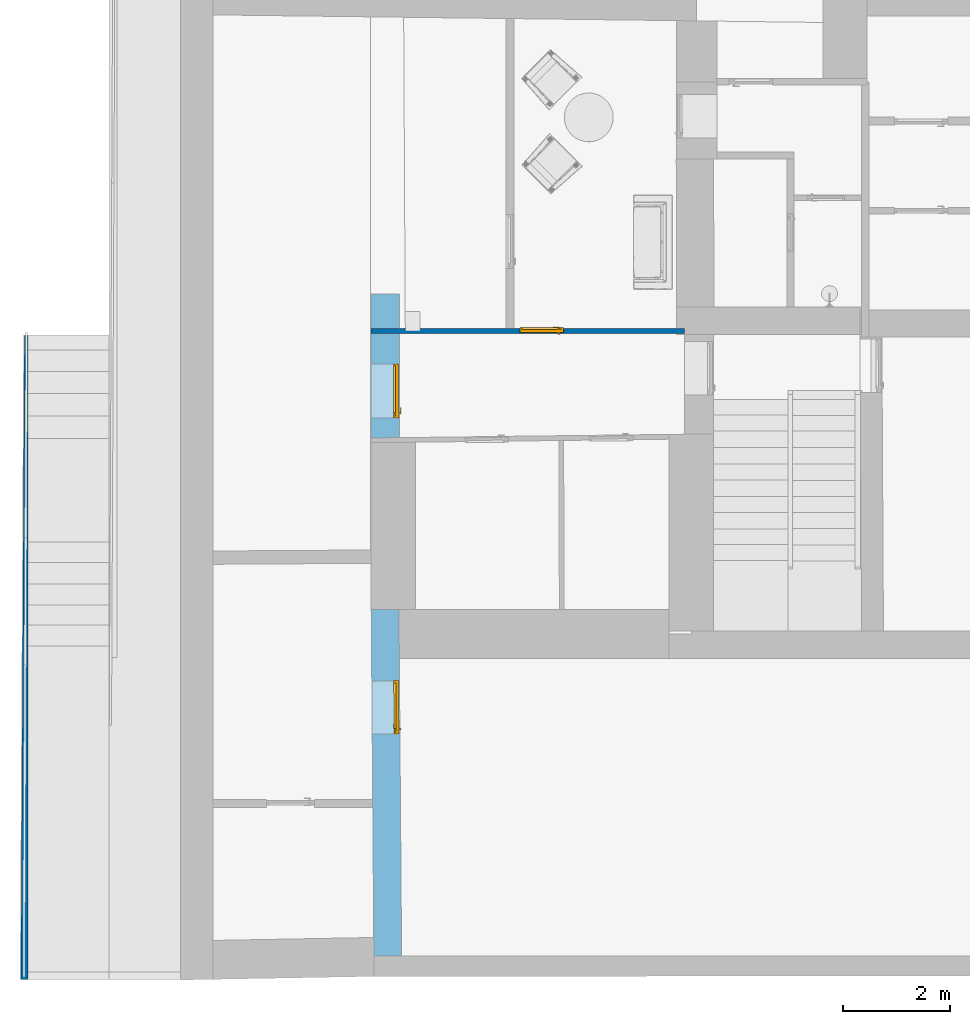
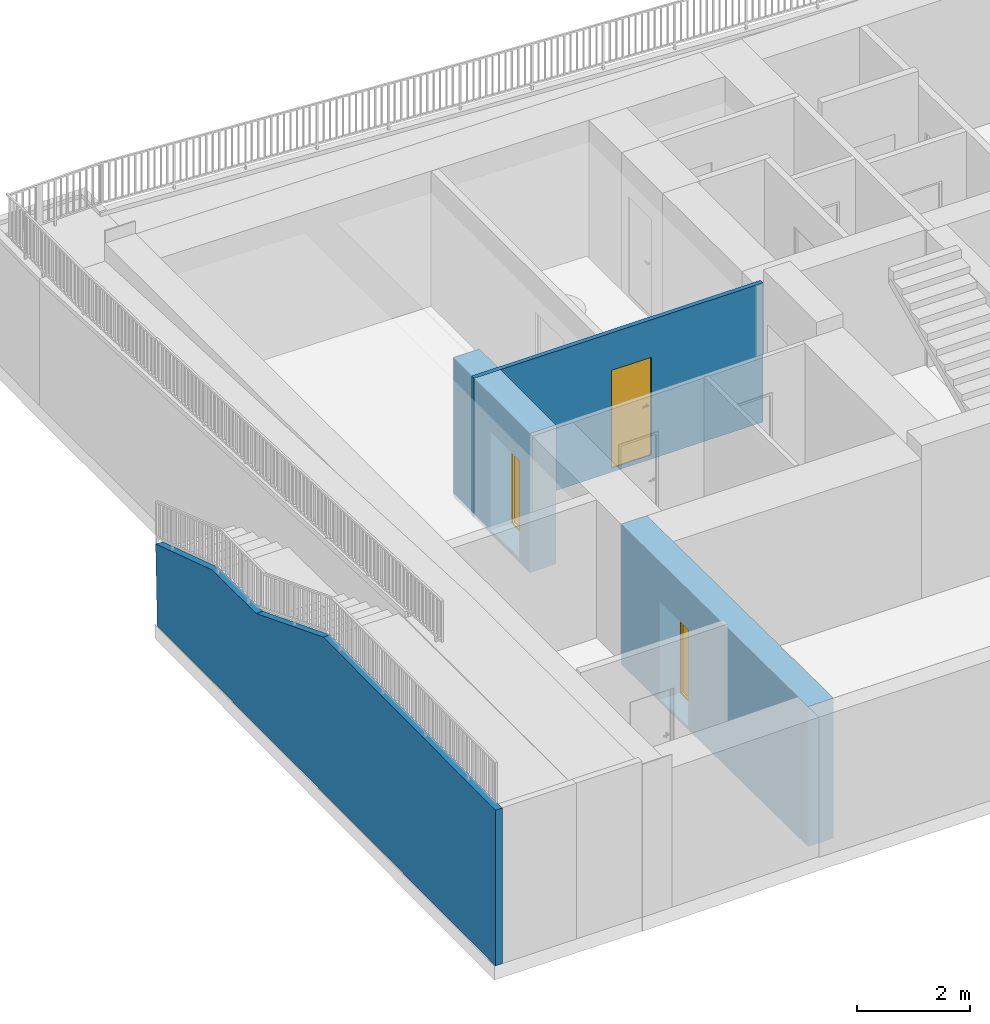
# One storey, part 6 of 17: 3 doors, 2 walls, 3 openings, plus 2 elements that do not belong to this part.
"""IFC2X3 building model written with IfcOpenShell, lengths in millimetres."""

from ifc_helpers import new_model, entity, si_unit, converted_unit, derived_unit, direction, frame, frame_2d, origin, place, context, subcontext, project, spatial, polyline, rectangle, outline, extrude, clip, bounded_halfspace, faceted_brep, source, transform, mapped, material, material_list, layer, layer_set, layer_usage, type_object, type_shapes, element, fill, save


model = new_model("IFC2X3")

# Units and contexts
model_context = context("Model", 3, precision=0.01, world=origin(), true_north=direction((6.12303176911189e-17, 1.0)))
context_of_model = context(None, 3, precision=0.01, world=origin(), true_north=direction((6.12303176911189e-17, 1.0)))
body_context = subcontext(model_context, "Body", "Model", "MODEL_VIEW")
ifc_project = project(units=[si_unit("LENGTHUNIT", "METRE", prefix="MILLI"), si_unit("AREAUNIT", "SQUARE_METRE"), si_unit("VOLUMEUNIT", "CUBIC_METRE"), converted_unit("PLANEANGLEUNIT", "DEGREE", entity("IfcRatioMeasure", 0.0174532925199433), si_unit("PLANEANGLEUNIT", "RADIAN"), dimensions=[0, 0, 0, 0, 0, 0, 0]), si_unit("MASSUNIT", "GRAM", prefix="KILO"), derived_unit("MASSDENSITYUNIT", [(si_unit("MASSUNIT", "GRAM", prefix="KILO"), 1), (si_unit("LENGTHUNIT", "METRE"), -3)]), si_unit("TIMEUNIT", "SECOND"), si_unit("FREQUENCYUNIT", "HERTZ"), si_unit("THERMODYNAMICTEMPERATUREUNIT", "DEGREE_CELSIUS"), derived_unit("THERMALTRANSMITTANCEUNIT", [(si_unit("MASSUNIT", "GRAM", prefix="KILO"), 1), (si_unit("THERMODYNAMICTEMPERATUREUNIT", "KELVIN"), -1), (si_unit("TIMEUNIT", "SECOND"), -3)]), derived_unit("VOLUMETRICFLOWRATEUNIT", [(si_unit("LENGTHUNIT", "METRE"), 3), (si_unit("TIMEUNIT", "SECOND"), -1)]), si_unit("ELECTRICCURRENTUNIT", "AMPERE"), si_unit("ELECTRICVOLTAGEUNIT", "VOLT"), si_unit("POWERUNIT", "WATT"), si_unit("FORCEUNIT", "NEWTON", prefix="KILO"), si_unit("ILLUMINANCEUNIT", "LUX"), si_unit("LUMINOUSFLUXUNIT", "LUMEN"), si_unit("LUMINOUSINTENSITYUNIT", "CANDELA"), derived_unit("USERDEFINED", [(si_unit("MASSUNIT", "GRAM", prefix="KILO"), -1), (si_unit("LENGTHUNIT", "METRE"), -2), (si_unit("TIMEUNIT", "SECOND"), 3), (si_unit("LUMINOUSFLUXUNIT", "LUMEN"), 1)]), derived_unit("LINEARVELOCITYUNIT", [(si_unit("LENGTHUNIT", "METRE"), 1), (si_unit("TIMEUNIT", "SECOND"), -1)]), si_unit("PRESSUREUNIT", "PASCAL"), derived_unit("USERDEFINED", [(si_unit("LENGTHUNIT", "METRE"), -2), (si_unit("MASSUNIT", "GRAM", prefix="KILO"), 1), (si_unit("TIMEUNIT", "SECOND"), -2)])], contexts=[model_context, context_of_model])

# Site, building, storey
site_placement = place(None, frame((121442.264707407, 135347.995453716, -1800.0)))
site = spatial("IfcSite", under=ifc_project, at=site_placement, Name="Surface", CompositionType="ELEMENT")
building_placement = place(site_placement, origin())
building = spatial("IfcBuilding", under=site, at=building_placement, CompositionType="ELEMENT")
storey_placement = place(building_placement, frame((0.0, 0.0, -1490.0)))
storey = spatial("IfcBuildingStorey", under=building, at=storey_placement, Name="Kelder", CompositionType="ELEMENT", Elevation=-1489.99999999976)

# Wall, opening, door
ifc_material_1 = material(Name="__Betoonelement")
ifc_layer_1 = layer(ifc_material_1, 520.0)
ifc_layer_set_1 = layer_set([ifc_layer_1], Name="Basic Wall:52_Betoon 2")
ifc_layer_usage_1 = layer_usage(ifc_layer_set_1, "AXIS2", "NEGATIVE", 260.0)
wall_type_1 = type_object("IfcWallType", Name="Basic Wall:52_Betoon 2", PredefinedType="STANDARD", material=ifc_layer_set_1)
wall_1_placement = place(storey_placement, frame((-115403.369617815, -133193.472015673, -20.0), z_axis=(0.0, 0.0, 1.0), x_axis=(-0.00761736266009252, 0.999970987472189, 0.0)))
wall_1 = element("IfcWallStandardCase", 1, at=wall_1_placement, inside=storey, type_object=wall_type_1, material=ifc_layer_usage_1, Name="Basic Wall:52_Betoon 2", ObjectType="Basic Wall:52_Betoon 2", context=body_context, shape_type="Clipping", body=[
    clip(extrude(outline(polyline([(6497.37636983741, -260.0), (6501.33751334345, 260.0), (3.61065612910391, 260.0), (0.0, -260.0), (6497.37636983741, -260.0)])), origin(), (0.0, 0.0, 1.0), 3017.0), bounded_halfspace(frame((0.0, -260.0, 3017.0), z_axis=(0.0, 0.0, -1.0), x_axis=(-0.999970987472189, 0.00761736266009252, 0.0)), True, frame((0.0, -260.0, 3017.0)), polyline([(0.0, 0.0), (5577.34967753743, 0.0), (6497.37636983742, 0.0), (6501.33751334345, 520.0), (353.911781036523, 520.0), (3.610656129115, 520.0), (0.0, 0.0)]))),
])
opening_1_placement = place(wall_1_placement, frame((5162.29273596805, 260.0, 60.0)))
opening_1 = element("IfcOpeningElement", 2, at=opening_1_placement, cuts=wall_1, Name="sma_D01:1000 x 2100mm SU-9 Tuletokke:1", ObjectType="Opening", context=body_context, shape_type="SweptSolid", body=[
    extrude(rectangle(XDim=2099.99999999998, YDim=1000.0, at=frame_2d((1049.99999999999, 500.0), x_axis=(1.0, 0.0))), frame((0.0, 0.0, 0.0), z_axis=(0.0, -1.0, 0.0), x_axis=(0.0, 0.0, 1.0)), (0.0, 0.0, 1.0), 520.0),
])
ifc_material_2 = material(Name="Metal - Aluminium")
ifc_material_3 = material(Name="Metalli - teras- valge")
ifc_material_list_1 = material_list([ifc_material_2, ifc_material_3])
ifc_material_list_2 = material_list([ifc_material_2, ifc_material_3])
door_style_1 = type_object("IfcDoorStyle", Name="1000 x 2100mm SU-9 Tuletokke", ConstructionType="NOTDEFINED", OperationType="SINGLE_SWING_LEFT", ParameterTakesPrecedence=False, Sizeable=False, material=ifc_material_list_2)
shared_shape_1 = source(origin(), body_context, "Body", "Brep", [
    faceted_brep([(900.0, 410.0, 1112.5), (805.0, 410.0, 1112.5), (805.0, 405.0, 1112.5), (925.0, 405.0, 1112.5), (925.0, 448.0, 1112.5), (900.0, 448.0, 1112.5), (900.0, 410.0, 1087.5), (900.0, 448.0, 1087.5), (925.0, 448.0, 1087.5), (925.0, 405.0, 1087.5), (805.0, 405.0, 1087.5), (805.0, 410.0, 1087.5)], [[[0, 1, 2, 3, 4, 5]], [[6, 7, 8, 9, 10, 11]], [[5, 7, 6, 0]], [[4, 8, 7, 5]], [[3, 9, 8, 4]], [[2, 10, 9, 3]], [[1, 11, 10, 2]], [[0, 6, 11, 1]]]),
    faceted_brep([(887.500000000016, 448.0, 1137.5), (937.500000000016, 448.0, 1137.5), (937.500000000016, 450.0, 1137.5), (887.500000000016, 450.0, 1137.5), (887.500000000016, 448.0, 1017.5), (887.500000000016, 450.0, 1017.5), (937.500000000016, 450.0, 1017.5), (937.500000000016, 448.0, 1017.5)], [[[0, 1, 2, 3]], [[4, 5, 6, 7]], [[3, 5, 4, 0]], [[2, 6, 5, 3]], [[1, 7, 6, 2]], [[0, 4, 7, 1]]]),
    faceted_brep([(900.0, 540.0, 1112.5), (900.0, 502.0, 1112.5), (925.0, 502.0, 1112.5), (925.0, 545.0, 1112.5), (805.0, 545.0, 1112.5), (805.0, 540.0, 1112.5), (900.0, 540.0, 1087.5), (805.0, 540.0, 1087.5), (805.0, 545.0, 1087.5), (925.0, 545.0, 1087.5), (925.0, 502.0, 1087.5), (900.0, 502.0, 1087.5)], [[[0, 1, 2, 3, 4, 5]], [[6, 7, 8, 9, 10, 11]], [[1, 0, 6, 11]], [[2, 1, 11, 10]], [[3, 2, 10, 9]], [[4, 3, 9, 8]], [[5, 4, 8, 7]], [[0, 5, 7, 6]]]),
    faceted_brep([(887.500000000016, 502.0, 1137.5), (887.500000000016, 500.0, 1137.5), (937.500000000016, 500.0, 1137.5), (937.500000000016, 502.0, 1137.5), (887.500000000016, 502.0, 1017.5), (937.500000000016, 502.0, 1017.5), (937.500000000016, 500.0, 1017.5), (887.500000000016, 500.0, 1017.5)], [[[0, 1, 2, 3]], [[4, 5, 6, 7]], [[1, 0, 4, 7]], [[2, 1, 7, 6]], [[3, 2, 6, 5]], [[0, 3, 5, 4]]]),
    faceted_brep([(0.0, 410.0, 0.0), (0.0, 500.0, 0.0), (25.0, 500.0, 0.0), (25.0, 450.0, 0.0), (40.0, 450.0, 0.0), (40.0, 410.0, 0.0), (40.0, 410.0, 2060.0), (960.0, 410.0, 2060.0), (960.0, 410.0, 0.0), (1000.0, 410.0, 0.0), (1000.0, 410.0, 2100.0), (0.0, 410.0, 2100.0), (40.0, 450.0, 2060.0), (25.0, 450.0, 2075.0), (975.0, 450.0, 2075.0), (975.0, 450.0, 0.0), (960.0, 450.0, 0.0), (960.0, 450.0, 2060.0), (25.0, 500.0, 2075.0), (0.0, 500.0, 2100.0), (1000.0, 500.0, 2100.0), (1000.0, 500.0, 0.0), (975.0, 500.0, 0.0), (975.0, 500.0, 2075.0)], [[[0, 1, 2, 3, 4, 5]], [[5, 6, 7, 8, 9, 10, 11, 0]], [[4, 12, 6, 5]], [[3, 13, 14, 15, 16, 17, 12, 4]], [[2, 18, 13, 3]], [[1, 19, 20, 21, 22, 23, 18, 2]], [[0, 11, 19, 1]], [[10, 9, 21, 20]], [[9, 8, 16, 15, 22, 21]], [[17, 16, 8, 7]], [[23, 22, 15, 14]], [[12, 17, 7, 6]], [[18, 23, 14, 13]], [[11, 10, 20, 19]]]),
    faceted_brep([(975.0, 450.0, 2075.0), (25.0, 450.0, 2075.0), (25.0, 450.0, 20.0), (975.0, 450.0, 20.0), (975.0, 500.0, 2075.0), (975.0, 500.0, 20.0), (25.0, 500.0, 20.0), (25.0, 500.0, 2075.0)], [[[0, 1, 2, 3]], [[4, 5, 6, 7]], [[3, 5, 4, 0]], [[2, 6, 5, 3]], [[1, 7, 6, 2]], [[0, 4, 7, 1]]]),
    faceted_brep([(40.0, 410.0, 30.0), (40.0, 450.0, 30.0), (40.0, 450.0, 20.0), (40.0, 450.0, 0.0), (40.0, 410.0, 0.0), (960.0, 410.0, 30.0), (960.0, 410.0, 0.0), (960.0, 450.0, 0.0), (960.0, 450.0, 20.0), (960.0, 450.0, 30.0), (25.0, 450.0, 0.0), (25.0, 500.0, 0.0), (975.0, 500.0, 0.0), (975.0, 450.0, 0.0), (25.0, 500.0, 20.0), (25.0, 450.0, 20.0), (975.0, 500.0, 20.0), (975.0, 450.0, 20.0)], [[[0, 1, 2, 3, 4]], [[5, 6, 7, 8, 9]], [[4, 6, 5, 0]], [[3, 10, 11, 12, 13, 7, 6, 4]], [[9, 8, 2, 1]], [[0, 5, 9, 1]], [[14, 11, 10, 15]], [[16, 17, 13, 12]], [[15, 2, 8, 17, 16, 14]], [[10, 3, 2, 15]], [[14, 16, 12, 11]], [[17, 8, 7, 13]]]),
])
type_shapes(door_style_1, [shared_shape_1])
door_1_placement = place(opening_1_placement, frame((0.0, 0.0, 0.0), z_axis=(0.0, 0.0, 1.0), x_axis=(-1.0, 0.0, 0.0)))
door_1 = element("IfcDoor", 3, at=door_1_placement, inside=storey, type_object=door_style_1, material=ifc_material_list_1, Name="sma_D01:1000 x 2100mm SU-9 Tuletokke", ObjectType="1000 x 2100mm SU-9 Tuletokke", OverallHeight=2099.99999999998, OverallWidth=1000.0, context=body_context, shape_type="MappedRepresentation", body=[
    mapped(shared_shape_1, transform((0.0, 0.0, 0.0), scale=1.0)),
])
fill(opening_1, door_1)

ifc_layer_2 = layer(ifc_material_1, 90.0)
ifc_layer_set_2 = layer_set([ifc_layer_2], Name="Basic Wall:9_Betoon 2")
wall_type_2 = type_object("IfcWallType", Name="Basic Wall:9_Betoon 2", PredefinedType="STANDARD", material=ifc_layer_set_2)
wall_2_placement = place(storey_placement, frame((-109839.148081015, -121474.923072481, 0.0), z_axis=(0.0, 0.0, 1.0), x_axis=(-1.0, 0.0, 0.0)))
wall_2 = element("IfcWall", 4, at=wall_2_placement, inside=storey, type_object=wall_type_2, Name="Basic Wall:9_Betoon 2", ObjectType="Basic Wall:9_Betoon 2", context=body_context, shape_type="Brep", body=[
    faceted_brep([(5879.97873760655, -45.0, 0.0), (5879.97873760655, -45.0, 2997.0), (0.0, -45.0, 2997.0), (0.0, -45.0, 87.0), (5555.7275830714, -45.0, 87.0), (5555.7275830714, -45.0, 0.0), (3084.48827189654, -45.0, 2190.0), (3084.48827189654, -45.0, 90.0), (2274.48827189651, -45.0, 90.0), (2274.48827189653, -45.0, 2190.0), (5879.97873760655, 45.0, 0.0), (0.0, 45.0, 0.0), (0.0, 45.0, 2997.0), (5879.97873760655, 45.0, 2997.0), (3084.48827189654, 45.0, 90.0), (3084.48827189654, 45.0, 2190.0), (2274.48827189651, 45.0, 2190.0), (2274.48827189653, 45.0, 90.0), (5555.49564161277, 0.0, 0.0), (0.0, 0.0, 0.0), (0.0, 0.0, 87.0), (5555.49564161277, 0.0, 87.0)], [[[0, 1, 2, 3, 4, 5], [6, 7, 8, 9]], [[10, 11, 12, 13], [14, 15, 16, 17]], [[11, 10, 0, 5, 18, 19]], [[1, 0, 10, 13]], [[12, 11, 19, 20, 3, 2]], [[14, 7, 6, 15]], [[15, 6, 9, 16]], [[8, 17, 16, 9]], [[7, 14, 17, 8]], [[20, 21, 4, 3]], [[21, 20, 19, 18]], [[2, 1, 13, 12]], [[4, 21, 18, 5]]]),
])
opening_2_placement = place(wall_2_placement, frame((2274.48827189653, -45.0, 90.0)))
opening_2 = element("IfcOpeningElement", 5, at=opening_2_placement, cuts=wall_2, Name="sma_D01:810 x 2110_SU-01 Siseuks:1", ObjectType="Opening", context=body_context, shape_type="SweptSolid", body=[
    extrude(rectangle(XDim=2099.99999999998, YDim=810.0, at=frame_2d((1049.99999999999, 405.0), x_axis=(1.0, 0.0))), frame((0.0, 0.0, 0.0), z_axis=(0.0, 1.0, 0.0), x_axis=(0.0, 0.0, 1.0)), (0.0, 0.0, 1.0), 90.0),
])
ifc_material_4 = material(Name="Door - Panel_valge")
ifc_material_list_3 = material_list([ifc_material_2, ifc_material_4])
ifc_material_list_4 = material_list([ifc_material_2, ifc_material_4])
door_style_2 = type_object("IfcDoorStyle", Name="810 x 2110_SU-01 Siseuks", ConstructionType="NOTDEFINED", OperationType="SINGLE_SWING_RIGHT", ParameterTakesPrecedence=False, Sizeable=False, material=ifc_material_list_4)
shared_shape_2 = source(origin(), body_context, "Body", "Brep", [
    faceted_brep([(100.0, -20.0, 1112.5), (100.0, 18.0, 1112.5), (75.0, 18.0, 1112.5), (75.0, -25.0, 1112.5), (195.0, -25.0, 1112.5), (195.0, -20.0, 1112.5), (100.0, -20.0, 1087.5), (195.0, -20.0, 1087.5), (195.0, -25.0, 1087.5), (75.0, -25.0, 1087.5), (75.0, 18.0, 1087.5), (100.0, 18.0, 1087.5)], [[[0, 1, 2, 3, 4, 5]], [[6, 7, 8, 9, 10, 11]], [[1, 0, 6, 11]], [[2, 1, 11, 10]], [[3, 2, 10, 9]], [[4, 3, 9, 8]], [[5, 4, 8, 7]], [[0, 5, 7, 6]]]),
    faceted_brep([(112.5, 18.0, 1137.5), (112.5, 20.0, 1137.5), (62.4999999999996, 20.0, 1137.5), (62.4999999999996, 18.0, 1137.5), (112.5, 18.0, 1017.5), (62.4999999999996, 18.0, 1017.5), (62.4999999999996, 20.0, 1017.5), (112.5, 20.0, 1017.5)], [[[0, 1, 2, 3]], [[4, 5, 6, 7]], [[1, 0, 4, 7]], [[2, 1, 7, 6]], [[3, 2, 6, 5]], [[0, 3, 5, 4]]]),
    faceted_brep([(100.0, 110.0, 1112.5), (195.0, 110.0, 1112.5), (195.0, 115.0, 1112.5), (75.0, 115.0, 1112.5), (75.0, 72.0, 1112.5), (100.0, 72.0, 1112.5), (100.0, 110.0, 1087.5), (100.0, 72.0, 1087.5), (75.0, 72.0, 1087.5), (75.0, 115.0, 1087.5), (195.0, 115.0, 1087.5), (195.0, 110.0, 1087.5)], [[[0, 1, 2, 3, 4, 5]], [[6, 7, 8, 9, 10, 11]], [[5, 7, 6, 0]], [[4, 8, 7, 5]], [[3, 9, 8, 4]], [[2, 10, 9, 3]], [[1, 11, 10, 2]], [[0, 6, 11, 1]]]),
    faceted_brep([(112.5, 72.0, 1137.5), (62.4999999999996, 72.0, 1137.5), (62.4999999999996, 70.0, 1137.5), (112.5, 70.0, 1137.5), (112.5, 72.0, 1017.5), (112.5, 70.0, 1017.5), (62.4999999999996, 70.0, 1017.5), (62.4999999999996, 72.0, 1017.5)], [[[0, 1, 2, 3]], [[4, 5, 6, 7]], [[3, 5, 4, 0]], [[2, 6, 5, 3]], [[1, 7, 6, 2]], [[0, 4, 7, 1]]]),
    faceted_brep([(810.0, -20.0, 0.0), (770.0, -20.0, 0.0), (770.0, 20.0, 0.0), (785.0, 20.0, 0.0), (785.0, 70.0, 0.0), (810.0, 70.0, 0.0), (810.0, -20.0, 2100.0), (0.0, -20.0, 2100.0), (0.0, -20.0, 0.0), (40.0, -20.0, 0.0), (40.0, -20.0, 2060.0), (770.0, -20.0, 2060.0), (770.0, 20.0, 2060.0), (40.0, 20.0, 2060.0), (40.0, 20.0, 0.0), (25.0, 20.0, 0.0), (25.0, 20.0, 2075.0), (785.0, 20.0, 2075.0), (785.0, 70.0, 2075.0), (25.0, 70.0, 2075.0), (25.0, 70.0, 0.0), (0.0, 70.0, 0.0), (0.0, 70.0, 2100.0), (810.0, 70.0, 2100.0)], [[[0, 1, 2, 3, 4, 5]], [[1, 0, 6, 7, 8, 9, 10, 11]], [[2, 1, 11, 12]], [[3, 2, 12, 13, 14, 15, 16, 17]], [[4, 3, 17, 18]], [[5, 4, 18, 19, 20, 21, 22, 23]], [[0, 5, 23, 6]], [[7, 22, 21, 8]], [[8, 21, 20, 15, 14, 9]], [[13, 10, 9, 14]], [[19, 16, 15, 20]], [[12, 11, 10, 13]], [[18, 17, 16, 19]], [[6, 23, 22, 7]]]),
    faceted_brep([(25.0, 20.0, 2075.0), (25.0, 20.0, 20.0), (785.0, 20.0, 20.0), (785.0, 20.0, 2075.0), (25.0, 70.0, 2075.0), (785.0, 70.0, 2075.0), (785.0, 70.0, 20.0), (25.0, 70.0, 20.0)], [[[0, 1, 2, 3]], [[4, 5, 6, 7]], [[1, 0, 4, 7]], [[2, 1, 7, 6]], [[3, 2, 6, 5]], [[0, 3, 5, 4]]]),
    faceted_brep([(770.0, -20.0, 30.0), (770.0, -20.0, 0.0), (770.0, 20.0, 0.0), (770.0, 20.0, 20.0), (770.0, 20.0, 30.0), (40.0, -20.0, 30.0), (40.0, 20.0, 30.0), (40.0, 20.0, 20.0), (40.0, 20.0, 0.0), (40.0, -20.0, 0.0), (25.0, 20.0, 0.0), (25.0, 70.0, 0.0), (785.0, 70.0, 0.0), (785.0, 20.0, 0.0), (785.0, 70.0, 20.0), (785.0, 20.0, 20.0), (25.0, 70.0, 20.0), (25.0, 20.0, 20.0)], [[[0, 1, 2, 3, 4]], [[5, 6, 7, 8, 9]], [[1, 0, 5, 9]], [[2, 1, 9, 8, 10, 11, 12, 13]], [[6, 4, 3, 7]], [[0, 4, 6, 5]], [[14, 15, 13, 12]], [[16, 11, 10, 17]], [[15, 14, 16, 17, 7, 3]], [[13, 15, 3, 2]], [[14, 12, 11, 16]], [[17, 10, 8, 7]]]),
])
type_shapes(door_style_2, [shared_shape_2])
door_2_placement = place(opening_2_placement, origin())
door_2 = element("IfcDoor", 6, at=door_2_placement, inside=storey, type_object=door_style_2, material=ifc_material_list_3, Name="sma_D01:810 x 2110_SU-01 Siseuks", ObjectType="810 x 2110_SU-01 Siseuks", OverallHeight=2099.99999999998, OverallWidth=810.000000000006, context=body_context, shape_type="MappedRepresentation", body=[
    mapped(shared_shape_2, transform((0.0, 0.0, 0.0), scale=1.0)),
])
fill(opening_2, door_2)

ifc_layer_3 = layer(ifc_material_1, 530.0)
ifc_layer_set_3 = layer_set([ifc_layer_3], Name="Basic Wall:53_Betoon 3")
ifc_layer_usage_2 = layer_usage(ifc_layer_set_3, "AXIS2", "POSITIVE", -265.0)
wall_type_3 = type_object("IfcWallType", Name="Basic Wall:53_Betoon 3", PredefinedType="STANDARD", material=ifc_layer_set_3)
wall_3_placement = place(storey_placement, frame((-115449.701819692, -120782.264691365, 0.0), z_axis=(0.0, 0.0, 1.0), x_axis=(0.0, -1.0, 0.0)))
wall_3 = element("IfcWallStandardCase", 7, at=wall_3_placement, inside=storey, type_object=wall_type_3, material=ifc_layer_usage_2, Name="Basic Wall:53_Betoon 3", ObjectType="Basic Wall:53_Betoon 3", context=body_context, shape_type="Clipping", body=[
    clip(extrude(outline(polyline([(2698.13869381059, -265.0), (2691.85498093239, 265.0), (0.0, 265.0), (0.0, -265.0), (2698.13869381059, -265.0)])), origin(), (0.0, 0.0, 1.0), 2997.0), bounded_halfspace(frame((0.0, -265.0, 2997.0), z_axis=(0.0, 0.0, -1.0), x_axis=(1.0, 0.0, 0.0)), True, frame((0.0, -265.0, 2997.0)), polyline([(0.0, 0.0), (2698.13869381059, 0.0), (2691.85498093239, 530.0), (0.0, 530.0), (0.0, 0.0)]))),
])
opening_3_placement = place(wall_3_placement, frame((1314.29855837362, -265.0, 90.0)))
opening_3 = element("IfcOpeningElement", 8, at=opening_3_placement, cuts=wall_3, Name="sma_D01:1010 x 2110_SU-03 Siseuks:1", ObjectType="Opening", context=body_context, shape_type="SweptSolid", body=[
    extrude(rectangle(XDim=2099.99999999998, YDim=1010.0, at=frame_2d((1049.99999999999, 505.0), x_axis=(1.0, 0.0))), frame((0.0, 0.0, 0.0), z_axis=(0.0, 1.0, 0.0), x_axis=(0.0, 0.0, 1.0)), (0.0, 0.0, 1.0), 530.0),
])
ifc_material_list_5 = material_list([ifc_material_2, ifc_material_4])
ifc_material_list_6 = material_list([ifc_material_2, ifc_material_4])
door_style_3 = type_object("IfcDoorStyle", Name="1010 x 2110_SU-03 Siseuks", ConstructionType="USERDEFINED", OperationType="SINGLE_SWING_LEFT", ParameterTakesPrecedence=False, Sizeable=False, material=ifc_material_list_6)
shared_shape_3 = source(origin(), body_context, "Body", "Brep", [
    faceted_brep([(910.0, 420.0, 1112.5), (815.0, 420.0, 1112.5), (815.0, 415.0, 1112.5), (935.0, 415.0, 1112.5), (935.0, 458.0, 1112.5), (910.0, 458.0, 1112.5), (910.0, 420.0, 1087.5), (910.0, 458.0, 1087.5), (935.0, 458.0, 1087.5), (935.0, 415.0, 1087.5), (815.0, 415.0, 1087.5), (815.0, 420.0, 1087.5)], [[[0, 1, 2, 3, 4, 5]], [[6, 7, 8, 9, 10, 11]], [[5, 7, 6, 0]], [[4, 8, 7, 5]], [[3, 9, 8, 4]], [[2, 10, 9, 3]], [[1, 11, 10, 2]], [[0, 6, 11, 1]]]),
    faceted_brep([(897.500000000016, 458.0, 1137.5), (947.500000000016, 458.0, 1137.5), (947.500000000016, 460.0, 1137.5), (897.500000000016, 460.0, 1137.5), (897.500000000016, 458.0, 1017.5), (897.500000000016, 460.0, 1017.5), (947.500000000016, 460.0, 1017.5), (947.500000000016, 458.0, 1017.5)], [[[0, 1, 2, 3]], [[4, 5, 6, 7]], [[3, 5, 4, 0]], [[2, 6, 5, 3]], [[1, 7, 6, 2]], [[0, 4, 7, 1]]]),
    faceted_brep([(910.0, 550.0, 1112.5), (910.0, 512.0, 1112.5), (935.0, 512.0, 1112.5), (935.0, 555.0, 1112.5), (815.0, 555.0, 1112.5), (815.0, 550.0, 1112.5), (910.0, 550.0, 1087.5), (815.0, 550.0, 1087.5), (815.0, 555.0, 1087.5), (935.0, 555.0, 1087.5), (935.0, 512.0, 1087.5), (910.0, 512.0, 1087.5)], [[[0, 1, 2, 3, 4, 5]], [[6, 7, 8, 9, 10, 11]], [[1, 0, 6, 11]], [[2, 1, 11, 10]], [[3, 2, 10, 9]], [[4, 3, 9, 8]], [[5, 4, 8, 7]], [[0, 5, 7, 6]]]),
    faceted_brep([(897.500000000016, 512.0, 1137.5), (897.500000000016, 510.0, 1137.5), (947.500000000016, 510.0, 1137.5), (947.500000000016, 512.0, 1137.5), (897.500000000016, 512.0, 1017.5), (947.500000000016, 512.0, 1017.5), (947.500000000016, 510.0, 1017.5), (897.500000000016, 510.0, 1017.5)], [[[0, 1, 2, 3]], [[4, 5, 6, 7]], [[1, 0, 4, 7]], [[2, 1, 7, 6]], [[3, 2, 6, 5]], [[0, 3, 5, 4]]]),
    faceted_brep([(0.0, 420.0, 0.0), (0.0, 510.0, 0.0), (25.0, 510.0, 0.0), (25.0, 460.0, 0.0), (40.0, 460.0, 0.0), (40.0, 420.0, 0.0), (40.0, 420.0, 2060.0), (970.0, 420.0, 2060.0), (970.0, 420.0, 0.0), (1010.0, 420.0, 0.0), (1010.0, 420.0, 2100.0), (0.0, 420.0, 2100.0), (40.0, 460.0, 2060.0), (25.0, 460.0, 2075.0), (985.0, 460.0, 2075.0), (985.0, 460.0, 0.0), (970.0, 460.0, 0.0), (970.0, 460.0, 2060.0), (25.0, 510.0, 2075.0), (0.0, 510.0, 2100.0), (1010.0, 510.0, 2100.0), (1010.0, 510.0, 0.0), (985.0, 510.0, 0.0), (985.0, 510.0, 2075.0)], [[[0, 1, 2, 3, 4, 5]], [[5, 6, 7, 8, 9, 10, 11, 0]], [[4, 12, 6, 5]], [[3, 13, 14, 15, 16, 17, 12, 4]], [[2, 18, 13, 3]], [[1, 19, 20, 21, 22, 23, 18, 2]], [[0, 11, 19, 1]], [[10, 9, 21, 20]], [[9, 8, 16, 15, 22, 21]], [[17, 16, 8, 7]], [[23, 22, 15, 14]], [[12, 17, 7, 6]], [[18, 23, 14, 13]], [[11, 10, 20, 19]]]),
    faceted_brep([(985.0, 460.0, 2075.0), (25.0, 460.0, 2075.0), (25.0, 460.0, 20.0), (985.0, 460.0, 20.0), (985.0, 510.0, 2075.0), (985.0, 510.0, 20.0), (25.0, 510.0, 20.0), (25.0, 510.0, 2075.0)], [[[0, 1, 2, 3]], [[4, 5, 6, 7]], [[3, 5, 4, 0]], [[2, 6, 5, 3]], [[1, 7, 6, 2]], [[0, 4, 7, 1]]]),
    faceted_brep([(40.0, 420.0, 30.0), (40.0, 460.0, 30.0), (40.0, 460.0, 20.0), (40.0, 460.0, 0.0), (40.0, 420.0, 0.0), (970.0, 420.0, 30.0), (970.0, 420.0, 0.0), (970.0, 460.0, 0.0), (970.0, 460.0, 20.0), (970.0, 460.0, 30.0), (25.0, 460.0, 0.0), (25.0, 510.0, 0.0), (985.0, 510.0, 0.0), (985.0, 460.0, 0.0), (25.0, 510.0, 20.0), (25.0, 460.0, 20.0), (985.0, 510.0, 20.0), (985.0, 460.0, 20.0)], [[[0, 1, 2, 3, 4]], [[5, 6, 7, 8, 9]], [[4, 6, 5, 0]], [[3, 10, 11, 12, 13, 7, 6, 4]], [[9, 8, 2, 1]], [[0, 5, 9, 1]], [[14, 11, 10, 15]], [[16, 17, 13, 12]], [[15, 2, 8, 17, 16, 14]], [[10, 3, 2, 15]], [[14, 16, 12, 11]], [[17, 8, 7, 13]]]),
])
type_shapes(door_style_3, [shared_shape_3])
door_3_placement = place(opening_3_placement, origin())
door_3 = element("IfcDoor", 9, at=door_3_placement, inside=storey, type_object=door_style_3, material=ifc_material_list_5, Name="sma_D01:1010 x 2110_SU-03 Siseuks", ObjectType="1010 x 2110_SU-03 Siseuks", OverallHeight=2099.99999999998, OverallWidth=1010.0, context=body_context, shape_type="MappedRepresentation", body=[
    mapped(shared_shape_3, transform((0.0, 0.0, 0.0), scale=1.0)),
])
fill(opening_3, door_3)

# Wall
wall_type_4 = type_object("IfcWallType", Name="Walls 14:Walls 14", PredefinedType="NOTDEFINED")
wall_4_placement = place(storey_placement, frame((-122278.122437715, -133632.669541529, 0.0), z_axis=(0.0, 0.0, 1.0), x_axis=(0.0, 1.0, 0.0)))
element("IfcWall", 10, at=wall_4_placement, inside=storey, type_object=wall_type_4, Name="Walls 14:Walls 14", ObjectType="Walls 14:Walls 14", context=body_context, shape_type="Brep", body=[
    faceted_brep([(12088.3857481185, -204.41190480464, 1724.73312266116), (10080.3648153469, -193.654020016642, 2388.40899100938), (8509.70097830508, -185.239256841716, 2406.14994173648), (6120.86353903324, -172.441164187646, 3349.86104898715), (142.897990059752, -140.414473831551, 3349.86104898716), (142.897990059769, -140.414473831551, 3246.86104898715), (3961.96986736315, -160.874985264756, 3246.86104898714), (6254.64352054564, -173.15788461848, 3214.65342534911), (6254.64352054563, -173.15788461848, 3064.65342534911), (6649.64352054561, -175.274079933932, 3064.65342534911), (6649.64352054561, -175.274079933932, 2914.65342534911), (7024.64352054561, -177.283126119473, 2914.65342534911), (7024.64352054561, -177.283126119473, 2764.65342534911), (7419.64352054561, -179.399321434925, 2764.65342534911), (7419.64352054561, -179.399321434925, 2614.65342534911), (7814.6435205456, -181.515516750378, 2614.65342534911), (7814.6435205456, -181.515516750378, 2462.15342534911), (8199.6435205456, -183.578137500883, 2462.15342534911), (8199.64352054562, -183.578137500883, 2306.09177621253), (10144.6435205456, -193.998390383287, 2285.5481751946), (10144.6435205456, -193.998390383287, 2149.6534253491), (10559.6435205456, -196.221734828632, 2149.6534253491), (10559.6435205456, -196.221734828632, 1997.1534253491), (10984.6435205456, -198.498653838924, 1997.1534253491), (10984.6435205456, -198.498653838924, 1854.6534253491), (11399.6435205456, -200.721998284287, 1854.6534253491), (11399.6435205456, -200.721998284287, 1712.1534253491), (11804.6435205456, -202.891768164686, 1712.1534253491), (11804.6435205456, -202.891768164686, 1572.1534253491), (12079.6435205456, -204.365068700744, 1572.1534253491), (12079.6435205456, -204.365068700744, 1474.38488691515), (12089.1339110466, -64.7630007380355, 1724.73312266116), (12028.9057675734, -64.4403310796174, 0.0), (0.748162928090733, 0.0, 0.0), (0.748162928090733, 0.0, 3349.86104898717), (6121.61170196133, -32.7922601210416, 3349.86104898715), (8510.44914123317, -45.5903527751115, 2406.14994173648), (10081.112978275, -54.0051159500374, 2388.40899100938), (0.0, -139.648904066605, 3349.86104898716), (2.89799005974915, -139.664429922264, 3349.86104898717), (2.89799005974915, -136.23996577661, 3349.86104898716), (142.897990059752, -136.23996577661, 3349.86104898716), (0.0, -139.648904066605, 0.0), (12028.5211041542, -136.239965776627, 0.0), (2.89799005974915, -136.23996577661, 0.0), (2.89799005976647, -139.664429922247, 0.0), (12079.6435205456, -136.239965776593, 1463.93345521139), (12079.6435205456, -136.239965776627, 1572.1534253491), (11804.6435205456, -136.239965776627, 1572.1534253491), (11804.6435205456, -136.239965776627, 1712.1534253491), (11399.6435205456, -136.239965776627, 1712.1534253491), (11399.6435205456, -136.239965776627, 1854.6534253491), (10984.6435205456, -136.239965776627, 1854.6534253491), (10984.6435205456, -136.239965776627, 1997.1534253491), (10559.6435205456, -136.239965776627, 1997.1534253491), (10559.6435205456, -136.239965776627, 2149.6534253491), (10144.6435205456, -136.239965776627, 2149.6534253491), (10144.6435205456, -136.239965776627, 2285.5481751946), (8199.6435205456, -136.239965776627, 2306.09177621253), (8199.6435205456, -136.239965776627, 2462.15342534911), (7814.6435205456, -136.239965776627, 2462.15342534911), (7814.6435205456, -136.239965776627, 2614.65342534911), (7419.64352054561, -136.239965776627, 2614.65342534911), (7419.64352054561, -136.239965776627, 2764.65342534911), (7024.64352054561, -136.23996577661, 2764.65342534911), (7024.64352054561, -136.23996577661, 2914.65342534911), (6649.64352054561, -136.23996577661, 2914.65342534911), (3961.96986736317, -136.23996577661, 3246.86104898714), (142.897990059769, -136.23996577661, 3246.86104898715), (6649.64352054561, -136.23996577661, 3064.65342534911), (6254.64352054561, -136.23996577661, 3064.65342534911), (6254.64352054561, -136.23996577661, 3214.65342534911)], [[[0, 1, 2, 3, 4, 5, 6, 7, 8, 9, 10, 11, 12, 13, 14, 15, 16, 17, 18, 19, 20, 21, 22, 23, 24, 25, 26, 27, 28, 29, 30]], [[31, 32, 33, 34, 35, 36, 37]], [[1, 0, 31, 37]], [[2, 1, 37, 36]], [[3, 2, 36, 35]], [[35, 34, 38, 39, 40, 41, 4, 3]], [[42, 38, 34, 33]], [[33, 32, 43, 44, 45, 42]], [[32, 31, 0, 30, 46, 43]], [[29, 47, 46, 30]], [[48, 47, 29, 28]], [[49, 48, 28, 27]], [[50, 49, 27, 26]], [[51, 50, 26, 25]], [[52, 51, 25, 24]], [[53, 52, 24, 23]], [[54, 53, 23, 22]], [[55, 54, 22, 21]], [[56, 55, 21, 20]], [[57, 56, 20, 19]], [[58, 57, 19, 18]], [[59, 58, 18, 17]], [[60, 59, 17, 16]], [[61, 60, 16, 15]], [[62, 61, 15, 14]], [[63, 62, 14, 13]], [[64, 63, 13, 12]], [[65, 64, 12, 11]], [[66, 65, 11, 10]], [[67, 68, 41, 40, 44, 43, 46, 47, 48, 49, 50, 51, 52, 53, 54, 55, 56, 57, 58, 59, 60, 61, 62, 63, 64, 65, 66, 69, 70, 71]], [[44, 40, 39, 45]], [[69, 66, 10, 9]], [[70, 69, 9, 8]], [[71, 70, 8, 7]], [[67, 71, 7, 6]], [[68, 67, 6, 5]], [[41, 68, 5, 4]], [[38, 42, 45, 39]]]),
])

save(model, "model.ifc")
